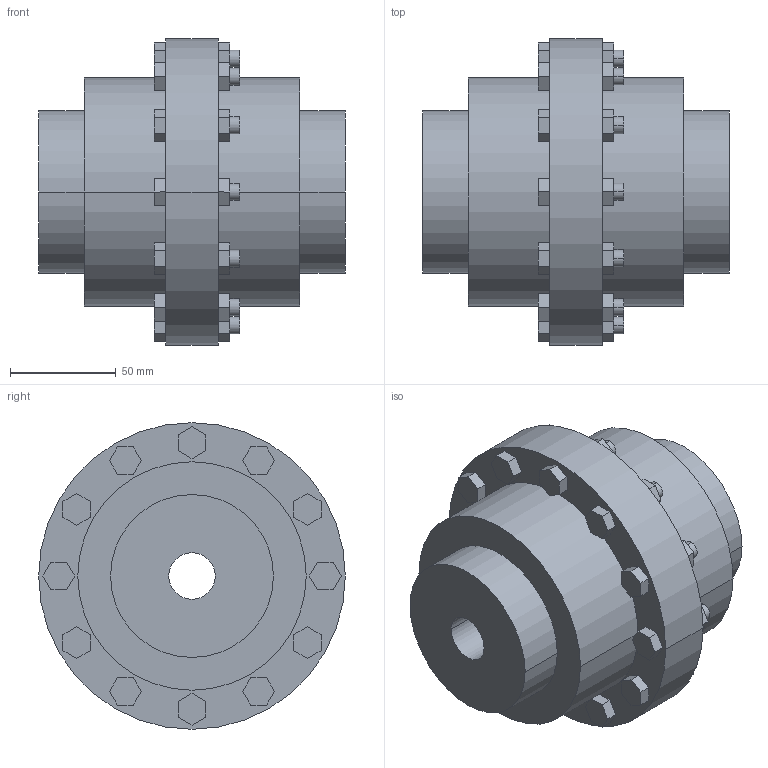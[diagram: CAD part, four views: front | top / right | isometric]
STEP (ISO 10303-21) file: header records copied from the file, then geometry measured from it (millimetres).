
FILE_DESCRIPTION((''),'2;1');
FILE_NAME('A18996600-0_ASM','2018-10-02T',('AB_Roschiwal'),('RENK AG'),'PRO/ENGINEER BY PARAMETRIC TECHNOLOGY CORPORATION, 2015440','PRO/ENGINEER BY PARAMETRIC TECHNOLOGY CORPORATION, 2015440','');
FILE_SCHEMA(('CONFIG_CONTROL_DESIGN'));
Length unit declared in the file: millimetre
Products named in the file (3): LBK48_GEHAEUSE; LBK48_NABE; A18996600-0_ASM
Assembly tree (3 placements, depth 2):
  A18996600-0_ASM
    LBK48_GEHAEUSE
    LBK48_NABE  x2
Bounding box: 145 x 145 x 145 mm (x, y, z)
Volume: 1175936 mm3; surface area: 178387.7 mm2
Topology: 3 solids, 3 shells, 246 faces, 588 edges, 392 vertices
Faces by surface type: plane 194, cylinder 52
Entity records: 6860 total; most frequent: CARTESIAN_POINT 1180, DIRECTION 1132, ORIENTED_EDGE 1128, EDGE_CURVE 564, VECTOR 476, LINE 476, VERTEX_POINT 376, AXIS2_PLACEMENT_3D 328
